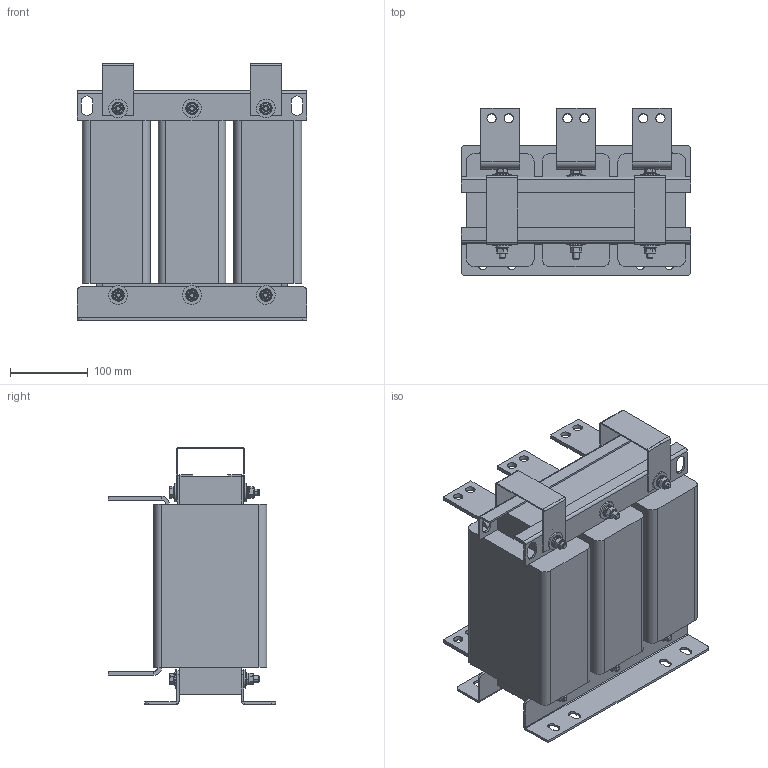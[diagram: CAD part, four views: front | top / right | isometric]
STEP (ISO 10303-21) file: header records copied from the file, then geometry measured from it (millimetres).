
FILE_DESCRIPTION (( 'STEP AP203' ), '1' );
FILE_NAME ('填蝾痦 漯铖皴朦 _ IMF-315_600-4.STEP', '2025-07-14T14:04:49', ( '' ), ( '' ), 'SwSTEP 2.0', 'SolidWorks 2021', '' );
FILE_SCHEMA (( 'CONFIG_CONTROL_DESIGN' ));
Length unit declared in the file: millimetre
Products named in the file (14): Ñêîáà òàêåëàæíàÿ_315; Øàéáà ïðóæèííàÿ DIN 127 (A)_Œ8; Ãàéêà DIN 934_Œ8; Áîëò DIN 933_Œ8å110; Øàéáà ïëîñêàÿ DIN 9021_Œ8; 填蝾痦 漯铖皴朦 _ IMF-315_600-4; 忺覷齆趌315; Êàòóøêà ñ êëåììàìè_315; Êëåììà íèæíÿÿ; 咈櫡_315; Êëåììà âåðõíÿÿ; Øàéáà ïëîñêàÿ DIN 125 (A)_Œ8; 赶鎀鍧 瀔鳽鳻膼嶱315; 栫謱毿膻獥315
Assembly tree (55 placements, depth 3):
  填蝾痦 漯铖皴朦 _ IMF-315_600-4
    栫謱毿膻獥315
    咈櫡_315  x2
    Êàòóøêà ñ êëåììàìè_315  x3
      忺覷齆趌315
      Êëåììà íèæíÿÿ
      Êëåììà âåðõíÿÿ
    赶鎀鍧 瀔鳽鳻膼嶱315  x2
    Ñêîáà òàêåëàæíàÿ_315  x2
    Áîëò DIN 933_Œ8å110  x6
    Øàéáà ïëîñêàÿ DIN 125 (A)_Œ8  x12
    Øàéáà ïëîñêàÿ DIN 9021_Œ8  x12
    Øàéáà ïðóæèííàÿ DIN 127 (A)_Œ8  x6
    Ãàéêà DIN 934_Œ8  x6
Bounding box: 295 x 215 x 330 mm (x, y, z)
Volume: 9559058.2 mm3; surface area: 1044756.7 mm2
Topology: 58 solids, 58 shells, 928 faces, 2096 edges, 1302 vertices
Faces by surface type: plane 434, cylinder 290, cone 192, torus 12
Entity records: 10392 total; most frequent: CARTESIAN_POINT 1535, DIRECTION 1391, ORIENTED_EDGE 1204, EDGE_CURVE 602, AXIS2_PLACEMENT_3D 513, VERTEX_POINT 377, VECTOR 365, LINE 365
